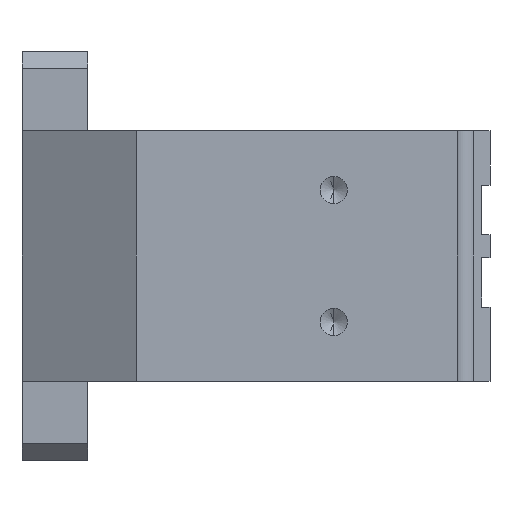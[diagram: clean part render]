
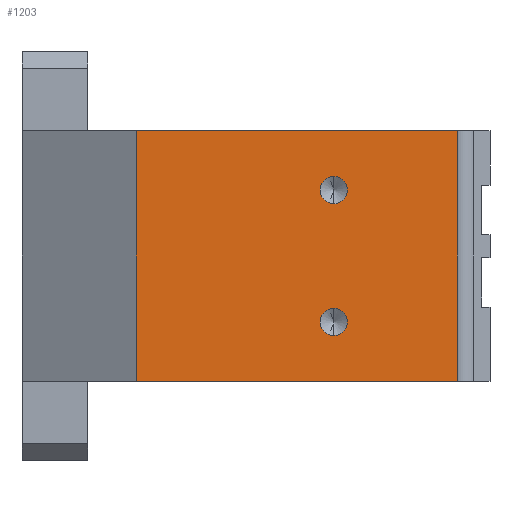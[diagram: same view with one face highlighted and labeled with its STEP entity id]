
A CAD part, front view. The second image highlights one B-rep face of the part: STEP entity #1203.
In plain terms, the highlighted planar face has unit normal (0, -1, 0).
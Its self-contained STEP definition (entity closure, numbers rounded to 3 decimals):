
#33 = CARTESIAN_POINT ( 'NONE',  ( 47.3, 0., -10. ) ) ;
#46 = FACE_BOUND ( 'NONE', #2159, .T. ) ;
#68 = EDGE_CURVE ( 'NONE', #343, #2163, #408, .T. ) ;
#89 = VERTEX_POINT ( 'NONE', #2099 ) ;
#319 = DIRECTION ( 'NONE',  ( 0., -1., 0. ) ) ;
#321 = DIRECTION ( 'NONE',  ( 0., -1., 0. ) ) ;
#343 = VERTEX_POINT ( 'NONE', #2580 ) ;
#351 = CARTESIAN_POINT ( 'NONE',  ( 47.3, 0., -12.067 ) ) ;
#365 = ORIENTED_EDGE ( 'NONE', *, *, #399, .F. ) ;
#399 = EDGE_CURVE ( 'NONE', #1805, #1999, #1902, .T. ) ;
#408 = LINE ( 'NONE', #660, #1802 ) ;
#472 = EDGE_CURVE ( 'NONE', #1655, #1088, #577, .T. ) ;
#525 = EDGE_CURVE ( 'NONE', #1999, #1805, #1469, .T. ) ;
#530 = ORIENTED_EDGE ( 'NONE', *, *, #472, .T. ) ;
#536 = ORIENTED_EDGE ( 'NONE', *, *, #924, .T. ) ;
#577 = LINE ( 'NONE', #2436, #699 ) ;
#588 = CARTESIAN_POINT ( 'NONE',  ( 66., 0., -31. ) ) ;
#595 = CARTESIAN_POINT ( 'NONE',  ( 47.3, 0., 10. ) ) ;
#600 = ORIENTED_EDGE ( 'NONE', *, *, #1757, .T. ) ;
#648 = DIRECTION ( 'NONE',  ( 0., 0., -1. ) ) ;
#649 = AXIS2_PLACEMENT_3D ( 'NONE', #2543, #319, #648 ) ;
#657 = EDGE_LOOP ( 'NONE', ( #365, #1068 ) ) ;
#660 = CARTESIAN_POINT ( 'NONE',  ( 0., 0., 19. ) ) ;
#680 = CARTESIAN_POINT ( 'NONE',  ( 47.3, 0., 12.067 ) ) ;
#699 = VECTOR ( 'NONE', #1397, 1000. ) ;
#702 = VECTOR ( 'NONE', #2440, 1000. ) ;
#776 = VECTOR ( 'NONE', #1131, 1000. ) ;
#805 = CIRCLE ( 'NONE', #1932, 2.067 ) ;
#855 = ORIENTED_EDGE ( 'NONE', *, *, #1328, .F. ) ;
#859 = CARTESIAN_POINT ( 'NONE',  ( 66., 0., 19. ) ) ;
#876 = ORIENTED_EDGE ( 'NONE', *, *, #1112, .F. ) ;
#907 = CARTESIAN_POINT ( 'NONE',  ( 66., 0., -19. ) ) ;
#924 = EDGE_CURVE ( 'NONE', #1088, #2163, #1839, .T. ) ;
#996 = CARTESIAN_POINT ( 'NONE',  ( 47.3, 0., 10. ) ) ;
#1009 = CARTESIAN_POINT ( 'NONE',  ( 17.321, 0., 19. ) ) ;
#1068 = ORIENTED_EDGE ( 'NONE', *, *, #525, .F. ) ;
#1088 = VERTEX_POINT ( 'NONE', #907 ) ;
#1112 = EDGE_CURVE ( 'NONE', #89, #1296, #805, .T. ) ;
#1131 = DIRECTION ( 'NONE',  ( 0., 0., 1. ) ) ;
#1202 = DIRECTION ( 'NONE',  ( 0., 0., -1. ) ) ;
#1203 = ADVANCED_FACE ( 'NONE', ( #2162, #46, #1613 ), #1627, .F. ) ;
#1254 = DIRECTION ( 'NONE',  ( 0., 0., 1. ) ) ;
#1257 = EDGE_LOOP ( 'NONE', ( #1643, #600, #530, #536 ) ) ;
#1296 = VERTEX_POINT ( 'NONE', #351 ) ;
#1301 = DIRECTION ( 'NONE',  ( 0., 1., 0. ) ) ;
#1319 = AXIS2_PLACEMENT_3D ( 'NONE', #2245, #1301, #1254 ) ;
#1328 = EDGE_CURVE ( 'NONE', #1296, #89, #2062, .T. ) ;
#1330 = DIRECTION ( 'NONE',  ( 0., 0., -1. ) ) ;
#1397 = DIRECTION ( 'NONE',  ( 1., 0., 0. ) ) ;
#1469 = CIRCLE ( 'NONE', #2202, 2.067 ) ;
#1518 = CARTESIAN_POINT ( 'NONE',  ( 47.3, 0., 7.933 ) ) ;
#1605 = CARTESIAN_POINT ( 'NONE',  ( 17.321, 0., -19. ) ) ;
#1613 = FACE_OUTER_BOUND ( 'NONE', #1257, .T. ) ;
#1627 = PLANE ( 'NONE',  #1319 ) ;
#1643 = ORIENTED_EDGE ( 'NONE', *, *, #68, .F. ) ;
#1655 = VERTEX_POINT ( 'NONE', #1605 ) ;
#1757 = EDGE_CURVE ( 'NONE', #343, #1655, #2195, .T. ) ;
#1802 = VECTOR ( 'NONE', #2077, 1000. ) ;
#1805 = VERTEX_POINT ( 'NONE', #1518 ) ;
#1839 = LINE ( 'NONE', #588, #776 ) ;
#1902 = CIRCLE ( 'NONE', #2318, 2.067 ) ;
#1932 = AXIS2_PLACEMENT_3D ( 'NONE', #33, #321, #1330 ) ;
#1999 = VERTEX_POINT ( 'NONE', #680 ) ;
#2022 = DIRECTION ( 'NONE',  ( 0., -1., 0. ) ) ;
#2062 = CIRCLE ( 'NONE', #649, 2.067 ) ;
#2077 = DIRECTION ( 'NONE',  ( 1., 0., 0. ) ) ;
#2099 = CARTESIAN_POINT ( 'NONE',  ( 47.3, 0., -7.933 ) ) ;
#2159 = EDGE_LOOP ( 'NONE', ( #855, #876 ) ) ;
#2162 = FACE_BOUND ( 'NONE', #657, .T. ) ;
#2163 = VERTEX_POINT ( 'NONE', #859 ) ;
#2195 = LINE ( 'NONE', #1009, #702 ) ;
#2202 = AXIS2_PLACEMENT_3D ( 'NONE', #996, #2022, #1202 ) ;
#2207 = DIRECTION ( 'NONE',  ( 0., 0., -1. ) ) ;
#2222 = DIRECTION ( 'NONE',  ( 0., -1., 0. ) ) ;
#2245 = CARTESIAN_POINT ( 'NONE',  ( 0., 0., 19. ) ) ;
#2318 = AXIS2_PLACEMENT_3D ( 'NONE', #595, #2222, #2207 ) ;
#2436 = CARTESIAN_POINT ( 'NONE',  ( 0., 0., -19. ) ) ;
#2440 = DIRECTION ( 'NONE',  ( 0., 0., -1. ) ) ;
#2543 = CARTESIAN_POINT ( 'NONE',  ( 47.3, 0., -10. ) ) ;
#2580 = CARTESIAN_POINT ( 'NONE',  ( 17.321, 0., 19. ) ) ;
